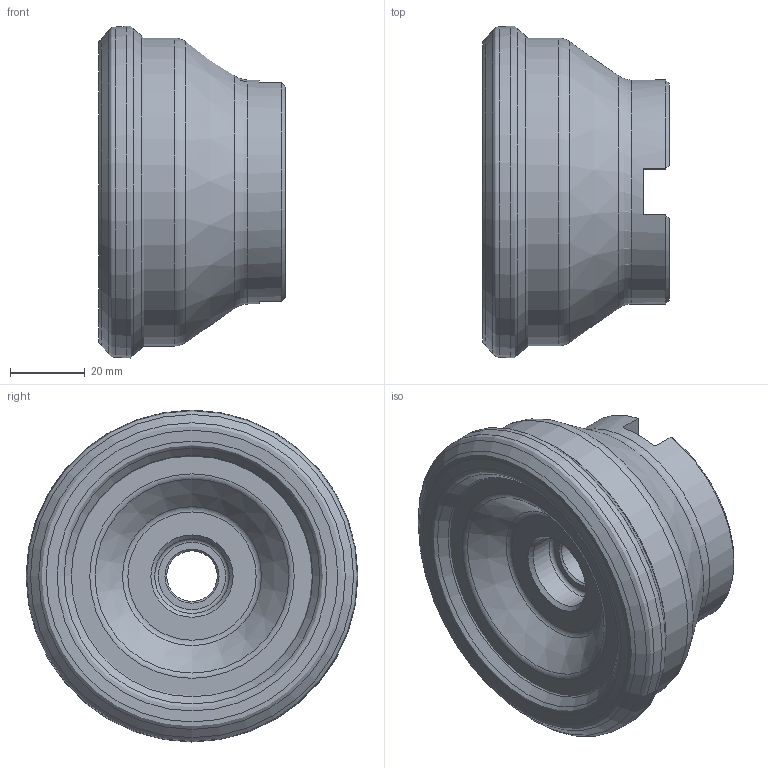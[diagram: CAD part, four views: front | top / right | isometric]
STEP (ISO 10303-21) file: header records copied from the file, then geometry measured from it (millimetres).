
FILE_DESCRIPTION(/* description */ (''),/* implementation_level */ '2;1');
FILE_NAME(/* name */ 'Stp.stp',/* time_stamp */ '2021-03-15T21:54:01+08:00',/* author */ (''),/* organization */ (''),/* preprocessor_version */ 'ST-DEVELOPER v16.7',/* originating_system */ 'SIEMENS PLM Software NX 12.0',/* authorisation */ '');
FILE_SCHEMA (('AUTOMOTIVE_DESIGN { 1 0 10303 214 3 1 1 1 }'));
Length unit declared in the file: millimetre
Products named in the file (2): OFKT05T3-DF; FMA04-080-A27-OF05-06_S
Assembly tree (6 placements, depth 2):
  FMA04-080-A27-OF05-06_S
    OFKT05T3-DF  x6
Bounding box: 49.95 x 88.81 x 88.86 mm (x, y, z)
Volume: 199393.7 mm3; surface area: 33279.6 mm2
Topology: 2 solids, 2 shells, 76 faces, 176 edges, 106 vertices
Faces by surface type: plane 20, revolution 16, cone 15, torus 15, cylinder 10
Full cylindrical faces by diameter (mm): 13.5 x1, 20 x1, 27 x1, 29 x1, 60 x1, 82.418 x1
Entity records: 2328 total; most frequent: CARTESIAN_POINT 703, DIRECTION 304, ORIENTED_EDGE 228, AXIS2_PLACEMENT_3D 132, EDGE_LOOP 126, EDGE_CURVE 114, FACE_BOUND 102, VERTEX_POINT 90
